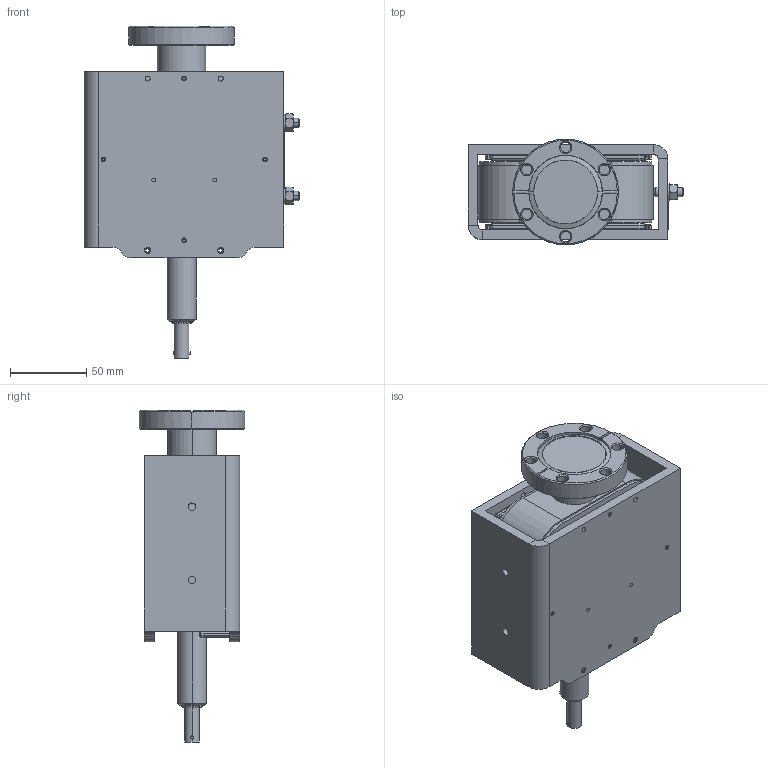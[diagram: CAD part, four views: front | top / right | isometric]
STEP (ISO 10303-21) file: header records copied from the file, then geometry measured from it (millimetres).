
FILE_DESCRIPTION((''),'2;1');
FILE_NAME('ASM0001_SW0003','2008-08-18T',('gollab'),('Gamma Vacuum, LLC'),'PRO/ENGINEER BY PARAMETRIC TECHNOLOGY CORPORATION, 2006080','PRO/ENGINEER BY PARAMETRIC TECHNOLOGY CORPORATION, 2006080','');
FILE_SCHEMA(('CONFIG_CONTROL_DESIGN'));
Length unit declared in the file: millimetre
Products named in the file (1): ASM0001_SW0003
Bounding box: 141.35 x 69.34 x 217.79 mm (x, y, z)
Volume: 485451.6 mm3; surface area: 198306.5 mm2
Topology: 5 solids, 5 shells, 594 faces, 1480 edges, 936 vertices
Faces by surface type: plane 250, cylinder 210, cone 90, torus 28, sphere 16
Entity records: 21720 total; most frequent: CARTESIAN_POINT 7336, DIRECTION 3010, ORIENTED_EDGE 2960, EDGE_CURVE 1480, AXIS2_PLACEMENT_3D 1110, VERTEX_POINT 936, VECTOR 790, LINE 790
